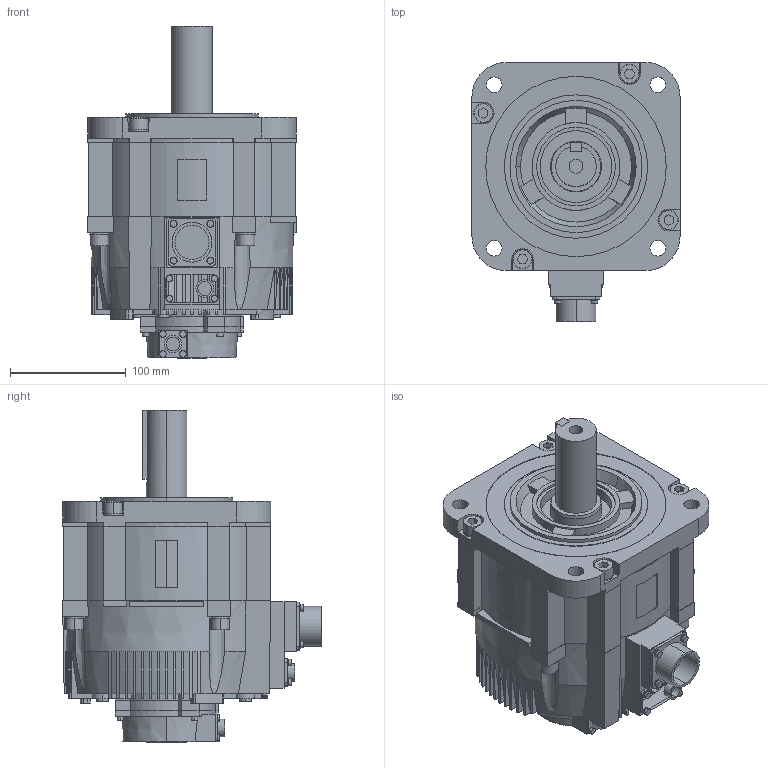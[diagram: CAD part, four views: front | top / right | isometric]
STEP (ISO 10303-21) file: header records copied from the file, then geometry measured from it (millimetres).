
FILE_DESCRIPTION (( 'STEP AP203' ), '1' );
FILE_NAME ('sgm7g_30__a6c.STEP', '2014-05-07T05:09:00', ( '匠エンジニアリング山之内' ), ( 'TAKUMI-Engniaring' ), 'SwSTEP 2.0', 'SolidWorks 2006303', '' );
FILE_SCHEMA (( 'CONFIG_CONTROL_DESIGN' ));
Length unit declared in the file: millimetre
Products named in the file (3): sgm7g_30__a6c; sgm7g_30__a6c_base; sgm7g_30__a6c_key
Assembly tree (2 placements, depth 2):
  sgm7g_30__a6c
    sgm7g_30__a6c_key
    sgm7g_30__a6c_base
Bounding box: 180 x 223.85 x 287.1 mm (x, y, z)
Volume: 4681359.9 mm3; surface area: 260143.4 mm2
Topology: 2 solids, 2 shells, 956 faces, 2514 edges, 1659 vertices
Faces by surface type: plane 628, cylinder 259, cone 69
Entity records: 30673 total; most frequent: CARTESIAN_POINT 6310, DIRECTION 5055, ORIENTED_EDGE 5028, EDGE_CURVE 2514, AXIS2_PLACEMENT_3D 1789, VERTEX_POINT 1659, VECTOR 1477, LINE 1477
